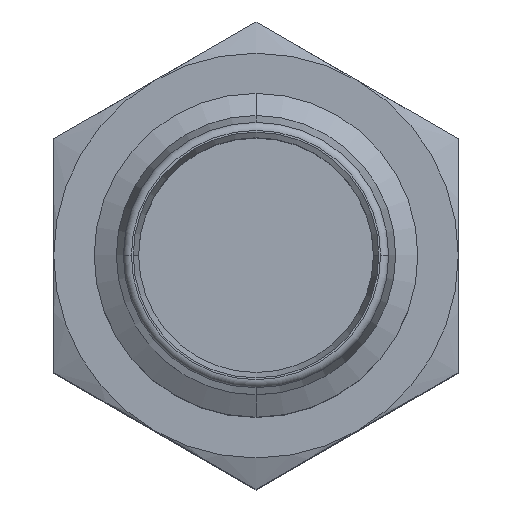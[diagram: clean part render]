
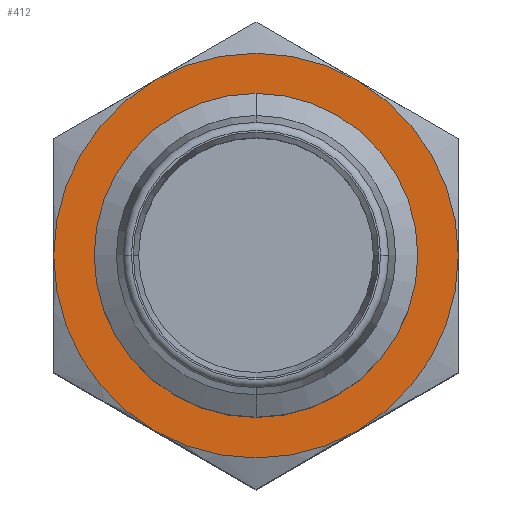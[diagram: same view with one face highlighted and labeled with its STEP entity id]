
A CAD part, top view. The second image highlights one B-rep face of the part: STEP entity #412.
In plain terms, the highlighted planar face has unit normal (0, 0, 1).
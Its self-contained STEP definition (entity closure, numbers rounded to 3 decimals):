
#148 = CIRCLE ( 'NONE', #887, 5. ) ;
#154 = CIRCLE ( 'NONE', #883, 5. ) ;
#166 = FACE_BOUND ( 'NONE', #168, .T. ) ;
#168 = EDGE_LOOP ( 'NONE', ( #1499, #1448 ) ) ;
#174 = EDGE_LOOP ( 'NONE', ( #1500, #558, #590, #555, #589, #672 ) ) ;
#275 = EDGE_CURVE ( 'NONE', #705, #597, #154, .T. ) ;
#281 = EDGE_CURVE ( 'NONE', #696, #705, #148, .T. ) ;
#312 = CARTESIAN_POINT ( 'NONE',  ( 2.933, 3.933, 3.635 ) ) ;
#313 = DIRECTION ( 'NONE',  ( 0., 0., 1. ) ) ;
#314 = DIRECTION ( 'NONE',  ( 0.5, -0.866, 0. ) ) ;
#317 = CARTESIAN_POINT ( 'NONE',  ( 2.933, 3.933, 3.635 ) ) ;
#318 = DIRECTION ( 'NONE',  ( 0., 0., 1. ) ) ;
#319 = DIRECTION ( 'NONE',  ( 0.5, -0.866, 0. ) ) ;
#364 = CARTESIAN_POINT ( 'NONE',  ( 2.933, 3.933, 3.635 ) ) ;
#365 = DIRECTION ( 'NONE',  ( 0., 0., 1. ) ) ;
#366 = DIRECTION ( 'NONE',  ( -1., 0., 0. ) ) ;
#412 = ADVANCED_FACE ( 'NONE', ( #166, #460 ), #1660, .F. ) ;
#431 = CIRCLE ( 'NONE', #950, 5. ) ;
#437 = CIRCLE ( 'NONE', #949, 5. ) ;
#438 = CIRCLE ( 'NONE', #947, 5. ) ;
#455 = CIRCLE ( 'NONE', #948, 5. ) ;
#460 = FACE_OUTER_BOUND ( 'NONE', #174, .T. ) ;
#521 = CIRCLE ( 'NONE', #902, 4. ) ;
#536 = EDGE_CURVE ( 'NONE', #603, #652, #521, .T. ) ;
#555 = ORIENTED_EDGE ( 'NONE', *, *, #1249, .T. ) ;
#558 = ORIENTED_EDGE ( 'NONE', *, *, #1247, .T. ) ;
#589 = ORIENTED_EDGE ( 'NONE', *, *, #281, .T. ) ;
#590 = ORIENTED_EDGE ( 'NONE', *, *, #1256, .T. ) ;
#597 = VERTEX_POINT ( 'NONE', #777 ) ;
#603 = VERTEX_POINT ( 'NONE', #778 ) ;
#645 = VERTEX_POINT ( 'NONE', #789 ) ;
#648 = VERTEX_POINT ( 'NONE', #801 ) ;
#652 = VERTEX_POINT ( 'NONE', #1033 ) ;
#672 = ORIENTED_EDGE ( 'NONE', *, *, #275, .T. ) ;
#687 = VERTEX_POINT ( 'NONE', #1048 ) ;
#696 = VERTEX_POINT ( 'NONE', #1050 ) ;
#705 = VERTEX_POINT ( 'NONE', #1058 ) ;
#777 = CARTESIAN_POINT ( 'NONE',  ( 5.433, 8.263, 3.635 ) ) ;
#778 = CARTESIAN_POINT ( 'NONE',  ( 2.933, 7.933, 3.635 ) ) ;
#789 = CARTESIAN_POINT ( 'NONE',  ( -2.067, 3.933, 3.635 ) ) ;
#801 = CARTESIAN_POINT ( 'NONE',  ( 0.433, -0.397, 3.635 ) ) ;
#821 = DIRECTION ( 'NONE',  ( 0., 0., 1. ) ) ;
#822 = DIRECTION ( 'NONE',  ( -1., 0., 0. ) ) ;
#883 = AXIS2_PLACEMENT_3D ( 'NONE', #1626, #1627, #1628 ) ;
#887 = AXIS2_PLACEMENT_3D ( 'NONE', #1646, #1647, #1648 ) ;
#894 = AXIS2_PLACEMENT_3D ( 'NONE', #1656, #1665, #1666 ) ;
#902 = AXIS2_PLACEMENT_3D ( 'NONE', #1663, #821, #822 ) ;
#928 = AXIS2_PLACEMENT_3D ( 'NONE', #364, #365, #366 ) ;
#947 = AXIS2_PLACEMENT_3D ( 'NONE', #312, #313, #314 ) ;
#948 = AXIS2_PLACEMENT_3D ( 'NONE', #317, #318, #319 ) ;
#949 = AXIS2_PLACEMENT_3D ( 'NONE', #1076, #1077, #1078 ) ;
#950 = AXIS2_PLACEMENT_3D ( 'NONE', #1081, #1082, #1083 ) ;
#959 = EDGE_CURVE ( 'NONE', #652, #603, #1302, .T. ) ;
#1033 = CARTESIAN_POINT ( 'NONE',  ( 2.933, -0.067, 3.635 ) ) ;
#1048 = CARTESIAN_POINT ( 'NONE',  ( 0.433, 8.263, 3.635 ) ) ;
#1050 = CARTESIAN_POINT ( 'NONE',  ( 5.433, -0.397, 3.635 ) ) ;
#1058 = CARTESIAN_POINT ( 'NONE',  ( 7.933, 3.933, 3.635 ) ) ;
#1076 = CARTESIAN_POINT ( 'NONE',  ( 2.933, 3.933, 3.635 ) ) ;
#1077 = DIRECTION ( 'NONE',  ( 0., 0., 1. ) ) ;
#1078 = DIRECTION ( 'NONE',  ( 0.5, -0.866, 0. ) ) ;
#1081 = CARTESIAN_POINT ( 'NONE',  ( 2.933, 3.933, 3.635 ) ) ;
#1082 = DIRECTION ( 'NONE',  ( 0., 0., 1. ) ) ;
#1083 = DIRECTION ( 'NONE',  ( 0.5, -0.866, 0. ) ) ;
#1247 = EDGE_CURVE ( 'NONE', #687, #645, #438, .T. ) ;
#1249 = EDGE_CURVE ( 'NONE', #648, #696, #455, .T. ) ;
#1255 = EDGE_CURVE ( 'NONE', #597, #687, #437, .T. ) ;
#1256 = EDGE_CURVE ( 'NONE', #645, #648, #431, .T. ) ;
#1302 = CIRCLE ( 'NONE', #928, 4. ) ;
#1448 = ORIENTED_EDGE ( 'NONE', *, *, #536, .F. ) ;
#1499 = ORIENTED_EDGE ( 'NONE', *, *, #959, .F. ) ;
#1500 = ORIENTED_EDGE ( 'NONE', *, *, #1255, .T. ) ;
#1626 = CARTESIAN_POINT ( 'NONE',  ( 2.933, 3.933, 3.635 ) ) ;
#1627 = DIRECTION ( 'NONE',  ( 0., 0., 1. ) ) ;
#1628 = DIRECTION ( 'NONE',  ( 0.5, -0.866, 0. ) ) ;
#1646 = CARTESIAN_POINT ( 'NONE',  ( 2.933, 3.933, 3.635 ) ) ;
#1647 = DIRECTION ( 'NONE',  ( 0., 0., 1. ) ) ;
#1648 = DIRECTION ( 'NONE',  ( 0.5, -0.866, 0. ) ) ;
#1656 = CARTESIAN_POINT ( 'NONE',  ( 2.933, 3.933, 3.635 ) ) ;
#1660 = PLANE ( 'NONE',  #894 ) ;
#1663 = CARTESIAN_POINT ( 'NONE',  ( 2.933, 3.933, 3.635 ) ) ;
#1665 = DIRECTION ( 'NONE',  ( 0., 0., -1. ) ) ;
#1666 = DIRECTION ( 'NONE',  ( -0.866, -0.5, 0. ) ) ;
